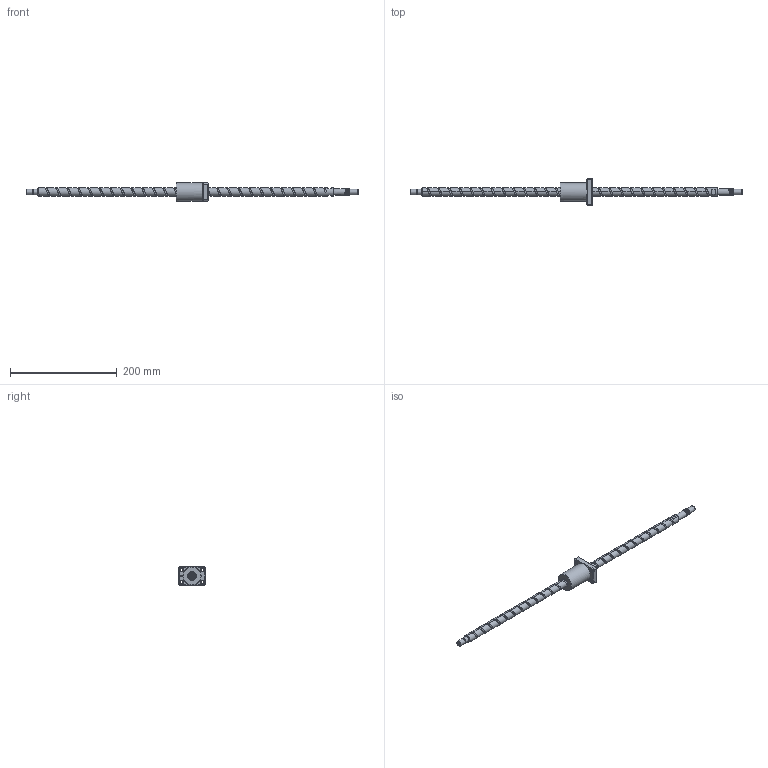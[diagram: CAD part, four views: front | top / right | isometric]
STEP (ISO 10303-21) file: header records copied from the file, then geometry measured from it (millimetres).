
FILE_DESCRIPTION (( 'STEP AP203' ), '1' );
FILE_NAME ('XSVR01520A1DGC5-621-P1.step', '2024-06-03T05:37:17', ( '' ), ( '' ), 'SwSTEP 2.0', 'SolidWorks 2022', '' );
FILE_SCHEMA (( 'CONFIG_CONTROL_DESIGN' ));
Length unit declared in the file: millimetre
Products named in the file (1): XSVR01520A1DGC5-621-P1
Bounding box: 621 x 50 x 34 mm (x, y, z)
Volume: 145959.5 mm3; surface area: 44331.6 mm2
Topology: 2 solids, 2 shells, 157 faces, 425 edges, 278 vertices
Faces by surface type: cylinder 80, plane 43, cone 15, bspline 10, torus 9
Full cylindrical faces by diameter (mm): 4 x1, 4.2 x15, 5 x6, 5.5 x4, 9.5 x4, 9.6 x1, 10 x3, 12 x9, 15 x27, 17 x1, 34 x1
Entity records: 18150 total; most frequent: CARTESIAN_POINT 16022, ORIENTED_EDGE 410, DIRECTION 391, EDGE_CURVE 205, AXIS2_PLACEMENT_3D 168, EDGE_LOOP 153, VERTEX_POINT 150, FACE_OUTER_BOUND 120
